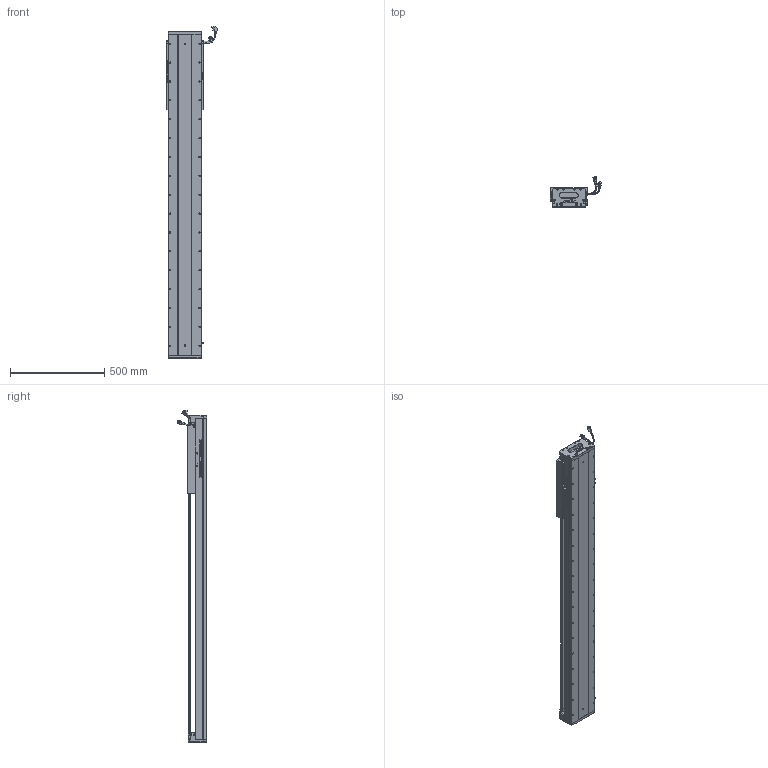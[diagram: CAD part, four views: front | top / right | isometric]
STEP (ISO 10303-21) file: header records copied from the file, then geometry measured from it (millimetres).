
FILE_DESCRIPTION (( 'STEP AP203' ), '1' );
FILE_NAME ('Z5-RY170D-1-L500-B-K.SLDASM_1250.step', '2021-05-18T00:40:26', ( '盈信电脑' ), ( '东莞市道滘镇水果街19号' ), 'SwSTEP 2.0', 'SolidWorks 2016', '' );
FILE_SCHEMA (( 'CONFIG_CONTROL_DESIGN' ));
Length unit declared in the file: millimetre
Products named in the file (36): HARNESS-Part-1; Z-RY170詩湍狟揤裔; Z5-RY170-L500耀郪菁釱_1250; Z-RY170詩湍奻揤裔; SCREW-M1.6-3; 140蚥薯蝶輸; COVER-Part-1; 170-Z-臏賑輸盄裔(21遴); HARNESS-Part-2; Z-170詩湍傷裔啣; SCALE-Part-1; SCALE; SCREW-M1.6; SEAL-Part-1; 080黍杅芛假蚾釱21遴; 榋妏寠巭燃_暯_M2_2; LABEL-Part-1; PBU_SHEET; SCREW-M1.7-1; SCALE-Part-2; LABEL; Z5-RY170臏賑輸(21遴); SCREW-M1.7; HOLDER0; RY170直线电机感应器672光电感应片; Z5-RY170-L500詩湍145mm遵_1250; 140雄赽晤鎢ん堤盄; Z5-RY170D-1-L500-B-K.SLDASM_1250; COVER; HARNESS; 覜茼ん672; SHIELDPLATE; PSLH080_PSLF2; SCREW-M1.6-1; SCREW-M1.6-2; SEAL
Assembly tree (41 placements, depth 4):
  Z5-RY170D-1-L500-B-K.SLDASM_1250
    Z5-RY170-L500耀郪菁釱_1250
    RY170直线电机感应器672光电感应片
    Z5-RY170臏賑輸(21遴)
    覜茼ん672  x3
    PSLH080_PSLF2
      SCALE
        SCALE-Part-1
        SCALE-Part-2
      HARNESS
        HARNESS-Part-1
        HARNESS-Part-2
      LABEL
        LABEL-Part-1
      COVER
        COVER-Part-1
      SEAL
        SEAL-Part-1
      榋妏寠巭燃_暯_M2_2
      SHIELDPLATE
      SCREW-M1.7
      SCREW-M1.7-1
      PBU_SHEET
      SCREW-M1.6
      SCREW-M1.6-1
      SCREW-M1.6-2
      SCREW-M1.6-3
      HOLDER0
    080黍杅芛假蚾釱21遴
    Z5-RY170-L500詩湍145mm遵_1250
    Z-170詩湍傷裔啣  x2
    Z-RY170詩湍奻揤裔  x2
    Z-RY170詩湍狟揤裔  x2
    140蚥薯蝶輸  x2
    170-Z-臏賑輸盄裔(21遴)
    140雄赽晤鎢ん堤盄
Bounding box: 275.33 x 158.11 x 1758.72 mm (x, y, z)
Volume: 9863164.8 mm3; surface area: 2342097.3 mm2
Topology: 36 solids, 36 shells, 3584 faces, 9753 edges, 6117 vertices
Faces by surface type: cylinder 1736, plane 1250, cone 476, torus 69, bspline 53
Entity records: 109133 total; most frequent: CARTESIAN_POINT 28956, ORIENTED_EDGE 16174, DIRECTION 15571, EDGE_CURVE 8087, AXIS2_PLACEMENT_3D 5746, VERTEX_POINT 5235, LINE 4079, VECTOR 4079
